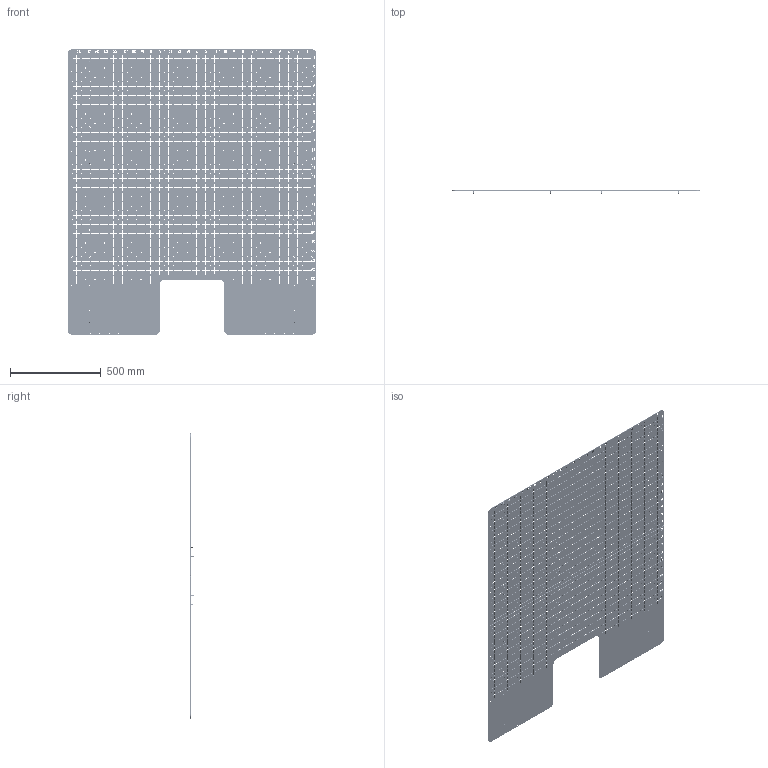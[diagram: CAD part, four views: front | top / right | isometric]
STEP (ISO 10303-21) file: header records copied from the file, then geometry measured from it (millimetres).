
FILE_DESCRIPTION (( 'STEP AP203' ), '1' );
FILE_NAME ('5013158_REV-A - VERSACART 1700 OVERSIZED VISUAL INFEED.STEP', '2024-12-18T19:12:16', ( '' ), ( '' ), 'SwSTEP 2.0', 'SolidWorks 2019', '' );
FILE_SCHEMA (( 'CONFIG_CONTROL_DESIGN' ));
Length unit declared in the file: metre
Products named in the file (6): 5013157_Default Configuration; 5013158_Default Configuration; 5013154_OPP. ROBOT; 5013158_REV-A - VERSACART 1700 OVERSIZED VISUAL INFEED; 5012087_Default Configuration; M4x0.7 FHCS_FHCS M4x0.7x16
Assembly tree (15 placements, depth 3):
  5013158_REV-A - VERSACART 1700 OVERSIZED VISUAL INFEED
    5013158_Default Configuration
      5013154_OPP. ROBOT
      5013157_Default Configuration
      M4x0.7 FHCS_FHCS M4x0.7x16  x12
  5012087_Default Configuration
Bounding box: 1371.6 x 16.57 x 1574.8 mm (x, y, z)
Volume: 5664896.5 mm3; surface area: 4116432.5 mm2
Topology: 14 solids, 14 shells, 15716 faces, 46932 edges, 31244 vertices
Faces by surface type: plane 9062, cylinder 6558, cone 96
Entity records: 531409 total; most frequent: CARTESIAN_POINT 92963, ORIENTED_EDGE 92936, DIRECTION 90576, EDGE_CURVE 46468, VECTOR 33412, LINE 33412, VERTEX_POINT 30969, AXIS2_PLACEMENT_3D 28582
